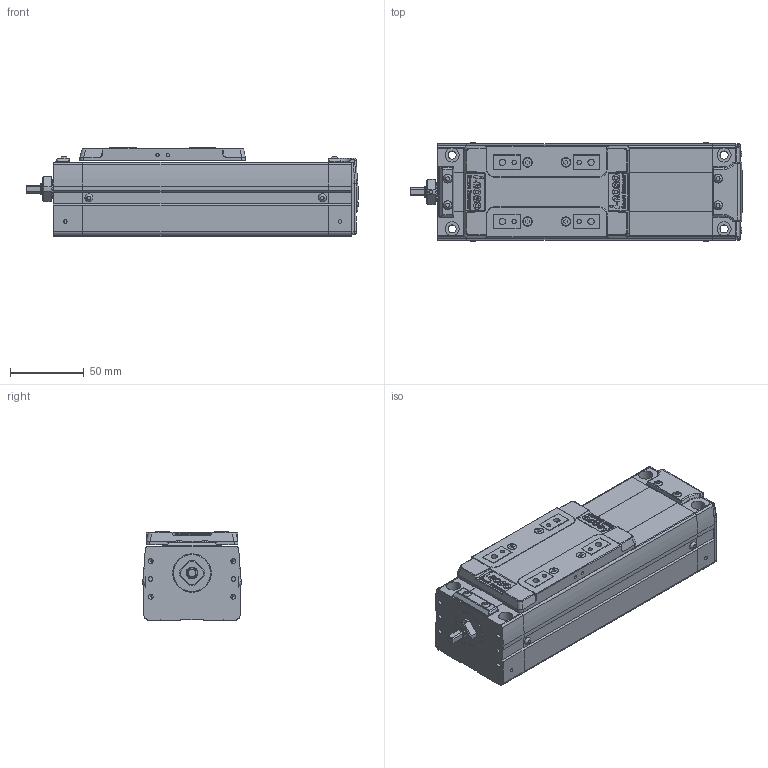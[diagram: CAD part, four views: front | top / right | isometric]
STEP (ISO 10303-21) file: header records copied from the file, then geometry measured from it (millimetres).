
FILE_DESCRIPTION(('STEP AP214'),'1');
FILE_NAME('Z:/Web/3D/SAN65/STP/SAN65ㅁㅁ-050.stp','2012-06-14T00:09:00',(' '),(' '),'Spatial InterOp 3D',' ',' ');
FILE_SCHEMA(('automotive_design'));
Length unit declared in the file: metre
Products named in the file (27): SAN65__-050; BODY-SAN65; REAR-SAN65; RRCV-SAN65; 스크루 : Round - M3.0 x 6.0; FRONT-SAN65; SHAFT-SAN65; RN8 x 0.75; SSFX-SAN65; SLIDE-SAN65; SLCV-SAN65; 스크루 : Countersunk - M3.0 x 6.0
Assembly tree (26 placements, depth 3):
  SAN65__-050
    BODY-SAN65
    REAR-SAN65
      REAR-SAN65
      RRCV-SAN65
      스크루 : Round - M3.0 x 6.0
      스크루 : Round - M3.0 x 6.0
      스크루 : Round - M3.0 x 6.0
      스크루 : Round - M3.0 x 6.0
      스크루 : Round - M3.0 x 6.0
      스크루 : Round - M3.0 x 6.0
    FRONT-SAN65
      FRONT-SAN65
      SHAFT-SAN65
      RN8 x 0.75
      SSFX-SAN65
      스크루 : Round - M3.0 x 6.0
      스크루 : Round - M3.0 x 6.0
      스크루 : Round - M3.0 x 6.0
      스크루 : Round - M3.0 x 6.0
    SLIDE-SAN65
      SLIDE-SAN65
      SLCV-SAN65
      스크루 : Countersunk - M3.0 x 6.0
      스크루 : Countersunk - M3.0 x 6.0
      스크루 : Countersunk - M3.0 x 6.0
      스크루 : Countersunk - M3.0 x 6.0
Bounding box: 224.65 x 67.13 x 60 mm (x, y, z)
Volume: 684987.2 mm3; surface area: 119493.2 mm2
Topology: 23 solids, 23 shells, 1360 faces, 3517 edges, 2294 vertices
Faces by surface type: plane 842, cylinder 389, cone 63, bspline 26, sphere 22, torus 15, extrusion 3
Full cylindrical faces by diameter (mm): 0.571 x2, 0.706 x1, 1.727 x2, 2.132 x1, 2.2 x4, 2.5 x9, 2.528 x4, 3 x6, 3.121 x2, 3.3 x4, 3.4 x4, 3.5 x6, 4.2 x14, 4.849 x4, 5 x3, 5.5 x4, 5.987 x2, 6 x6, 7 x1, 8 x4, 9.5 x4, 13 x1, 15 x1, 19 x1
Entity records: 56033 total; most frequent: CARTESIAN_POINT 11591, DIRECTION 6889, ORIENTED_EDGE 6584, EDGE_CURVE 3292, AXIS2_PLACEMENT_3D 2314, VECTOR 2261, LINE 2258, VERTEX_POINT 2244
